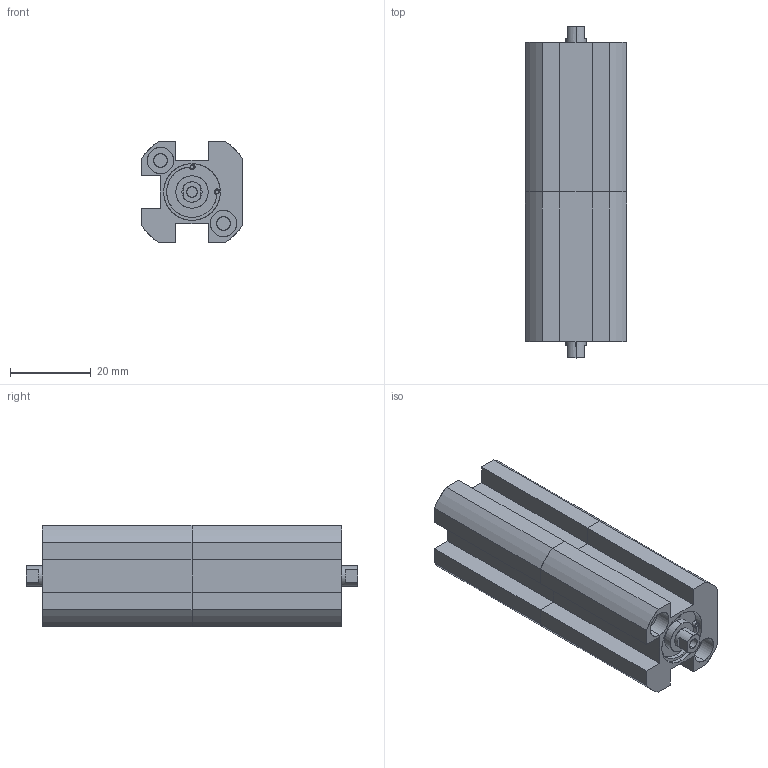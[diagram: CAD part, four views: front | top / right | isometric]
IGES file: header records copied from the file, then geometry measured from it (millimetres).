
Start section: SolidWorks IGES file using analytic representation for surfaces
Global section: file name: C:\Users\Toshiba\Desktop\XGD7-10-10-10.IGS; native system: SolidWorks 2014; preprocessor: SolidWorks 2014; author: Toshiba; date: 160805.094142; units: millimetre
Bounding box: 25 x 82 x 25 mm (x, y, z)
Surface area: 13674.3 mm2 (no closed solid volume)
Topology: 0 solids, 0 shells, 152 faces, 2422 edges, 2414 vertices
Faces by surface type: revolution 86, bspline 66
